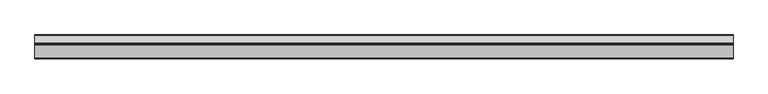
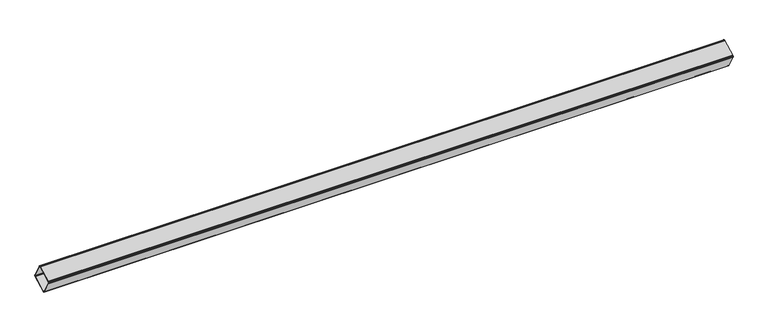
"""IFC4 building model written with IfcOpenShell, lengths in millimetres: beam geometry, Buton 164641 : Buton 164641."""

from ifc_helpers import new_model, si_unit, frame, origin, place, context, project, spatial, polyline, outline, extrude, source, transform, mapped, element, save


def beam_622f740f(model_context):
    return source(origin(), model_context, "Body", "SweptSolid", [
        extrude(outline(polyline([(-36513.5277892, 9379.5054949), (-36440.153053, 9420.3974024), (-36437.8030118, 9421.2588385), (-36435.3017914, 9421.3519102), (-36432.8942286, 9420.6675071), (-36430.8159926, 9419.2726233), (-36429.2705155, 9417.3037996), (-36388.3786081, 9343.9290635), (-36387.517172, 9341.5790223), (-36387.4241002, 9339.0778018), (-36388.1085034, 9336.6702391), (-36389.5033872, 9334.5920031), (-36391.4722108, 9333.046526), (-36464.846947, 9292.1546186), (-36467.1969882, 9291.2931825), (-36469.6982086, 9291.2001107), (-36472.1057714, 9291.8845138), (-36474.1840074, 9293.2793977), (-36475.7294845, 9295.2482213), (-36516.6213919, 9368.6229575), (-36517.482828, 9370.9729987), (-36517.5758998, 9373.4742191), (-36516.8914966, 9375.8817818), (-36515.4966128, 9377.9600178), (-36513.5277892, 9379.5054949)]), holes=[polyline([(-36513.1273569, 9370.5701911), (-36472.2354494, 9297.195455), (-36471.4627109, 9296.2110432), (-36470.4235929, 9295.5136012), (-36469.2198115, 9295.1713997), (-36467.9692013, 9295.2179356), (-36466.7941807, 9295.6486536), (-36393.4194445, 9336.540561), (-36392.4350327, 9337.3132996), (-36391.7375908, 9338.3524176), (-36391.3953892, 9339.556199), (-36391.4419251, 9340.8068092), (-36391.8726431, 9341.9818298), (-36432.7645506, 9415.356566), (-36433.5372891, 9416.3409778), (-36434.5764071, 9417.0384197), (-36435.7801885, 9417.3806212), (-36437.0307987, 9417.3340854), (-36438.2058193, 9416.9033673), (-36511.5805555, 9376.0114599), (-36512.5649673, 9375.2387213), (-36513.2624092, 9374.1996033), (-36513.6046108, 9372.995822), (-36513.5580749, 9371.7452118), (-36513.1273569, 9370.5701911)])]), frame((-115.0000001, 0.0, 0.0), z_axis=(1.0, 0.0, 0.0), x_axis=(0.0, 1.0, 0.0)), (0.0, 0.0, 1.0), 3777.5),
    ])


if __name__ == "__main__":
    model = new_model("IFC4")
    model_context = context("Model", 3, world=origin())
    ifc_project = project(units=[si_unit("LENGTHUNIT", "METRE", prefix="MILLI")], contexts=[model_context])
    site = spatial("IfcSite", under=ifc_project)
    building = spatial("IfcBuilding", under=site)
    placement = place(None, origin())
    beam_shape = beam_622f740f(model_context)
    element("IfcBeam", 1, ObjectType="Buton 164641 : Buton 164641", at=placement, inside=building, context=model_context, shape_type="MappedRepresentation", body=[
        mapped(beam_shape, transform((0.0, 0.0, 0.0), x_axis=(1.0, 0.0, 0.0), y_axis=(0.0, 1.0, 0.0), z_axis=(0.0, 0.0, 1.0))),
    ])
    save(model, "model.ifc")
